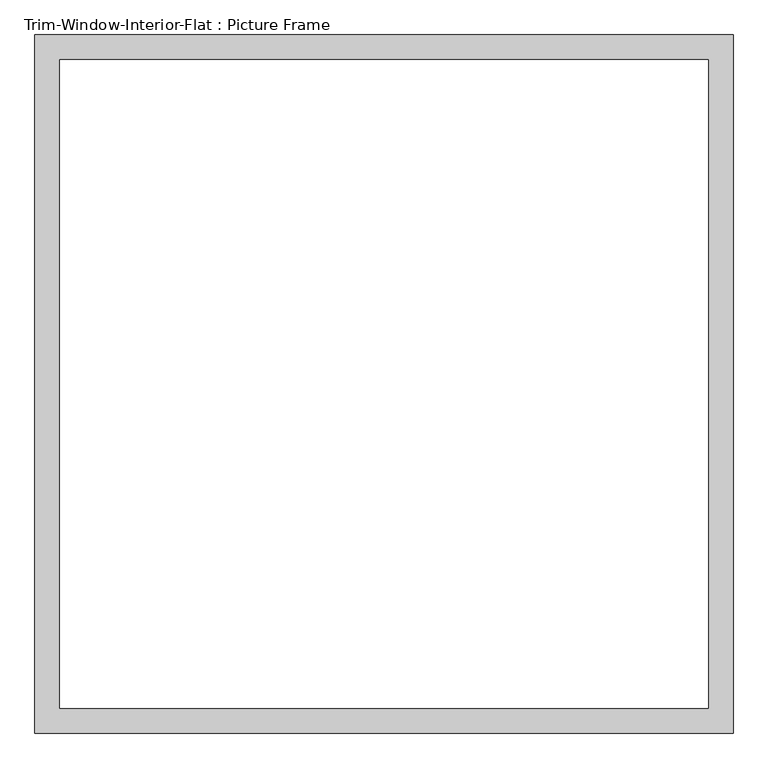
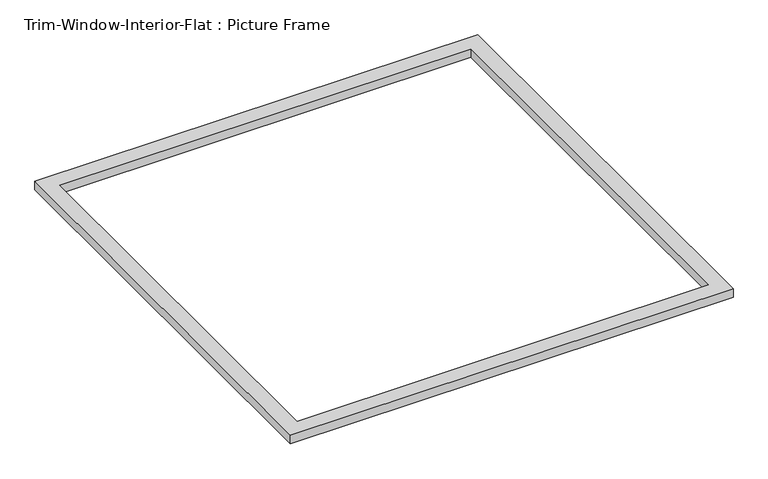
"""IFC4 building model written with IfcOpenShell, lengths in millimetres: proxy geometry, Trim-Window-Interior-Flat : Picture Frame."""

from ifc_helpers import new_model, si_unit, origin, origin_with_axes, place, context, project, spatial, polyline, outline, extrude, source, transform, mapped, element, save


def trim_window_interior_flat_picture_frame_a1a3bc7c(model_context):
    return source(origin(), model_context, "Body", "SweptSolid", [
        extrude(outline(polyline([(806.45, 44.45), (806.45, -1568.45), (-806.45, -1568.45), (-806.45, 44.45), (806.45, 44.45)]), holes=[polyline([(749.3, -12.7), (-749.3, -12.7), (-749.3, -1511.3), (749.3, -1511.3), (749.3, -12.7)])]), origin_with_axes(), (0.0, 0.0, 1.0), 31.75),
    ])


if __name__ == "__main__":
    model = new_model("IFC4")
    model_context = context("Model", 3, world=origin())
    ifc_project = project(units=[si_unit("LENGTHUNIT", "METRE", prefix="MILLI")], contexts=[model_context])
    site = spatial("IfcSite", under=ifc_project)
    building = spatial("IfcBuilding", under=site)
    placement = place(None, origin())
    trim_window_interior_flat_picture_frame_shape = trim_window_interior_flat_picture_frame_a1a3bc7c(model_context)
    element("IfcBuildingElementProxy", 1, Name="Trim-Window-Interior-Flat : Picture Frame", ObjectType="Trim-Window-Interior-Flat : Picture Frame", at=placement, inside=building, context=model_context, shape_type="MappedRepresentation", body=[
        mapped(trim_window_interior_flat_picture_frame_shape, transform((0.0, 0.0, 0.0), x_axis=(1.0, 0.0, 0.0), y_axis=(0.0, 1.0, 0.0), z_axis=(0.0, 0.0, 1.0))),
    ])
    save(model, "model.ifc")
